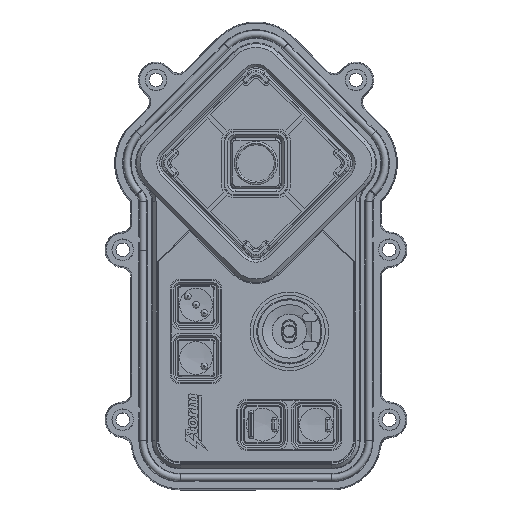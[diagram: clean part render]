
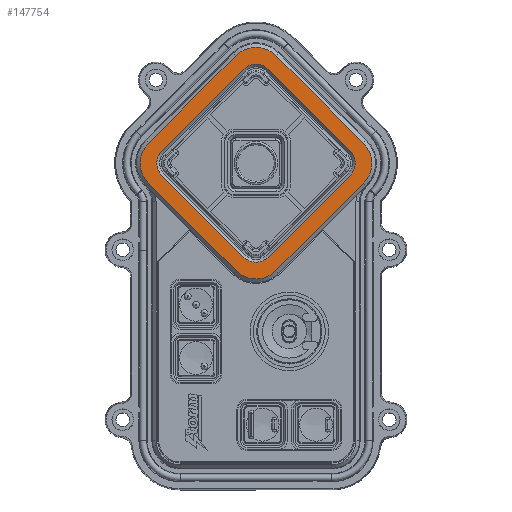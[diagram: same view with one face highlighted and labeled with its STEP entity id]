
A CAD part, top view. The second image highlights one B-rep face of the part: STEP entity #147754.
In plain terms, the highlighted planar face has unit normal (0, 0, 1).
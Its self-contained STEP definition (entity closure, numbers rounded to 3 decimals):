
#66 = VERTEX_POINT ( 'NONE', #4672 ) ;
#665 = CARTESIAN_POINT ( 'NONE',  ( -32.289, -5.97, 0. ) ) ;
#673 = CARTESIAN_POINT ( 'NONE',  ( 24.621, 0., 0. ) ) ;
#2659 = PLANE ( 'NONE',  #112557 ) ;
#4157 = CIRCLE ( 'NONE', #103508, 5.125 ) ;
#4672 = CARTESIAN_POINT ( 'NONE',  ( 3.624, -28.245, 0. ) ) ;
#5349 = CARTESIAN_POINT ( 'NONE',  ( -32.289, -5.97, 0. ) ) ;
#6485 = DIRECTION ( 'NONE',  ( 0., 0., 1. ) ) ;
#8148 = VECTOR ( 'NONE', #11241, 1000. ) ;
#8826 = VECTOR ( 'NONE', #121543, 1000. ) ;
#10736 = EDGE_LOOP ( 'NONE', ( #11108, #142085, #98765, #49258, #68237, #121639, #151900, #88462 ) ) ;
#11108 = ORIENTED_EDGE ( 'NONE', *, *, #134748, .T. ) ;
#11241 = DIRECTION ( 'NONE',  ( 0.707, 0.707, 0. ) ) ;
#12079 = CARTESIAN_POINT ( 'NONE',  ( -3.624, 28.245, 0. ) ) ;
#12913 = CIRCLE ( 'NONE', #147499, 8.443 ) ;
#13986 = CIRCLE ( 'NONE', #131234, 5.125 ) ;
#15923 = LINE ( 'NONE', #56421, #34665 ) ;
#16562 = CARTESIAN_POINT ( 'NONE',  ( 5.97, 32.289, 0. ) ) ;
#17347 = VERTEX_POINT ( 'NONE', #115428 ) ;
#18133 = EDGE_CURVE ( 'NONE', #70696, #79991, #13986, .T. ) ;
#22825 = CARTESIAN_POINT ( 'NONE',  ( -3.624, -28.245, 0. ) ) ;
#23420 = VERTEX_POINT ( 'NONE', #26204 ) ;
#26105 = CARTESIAN_POINT ( 'NONE',  ( 32.289, -5.97, 0. ) ) ;
#26204 = CARTESIAN_POINT ( 'NONE',  ( 5.97, -32.289, 0. ) ) ;
#28986 = ORIENTED_EDGE ( 'NONE', *, *, #76431, .T. ) ;
#30632 = EDGE_CURVE ( 'NONE', #66, #49650, #36450, .T. ) ;
#30885 = LINE ( 'NONE', #5349, #88582 ) ;
#34665 = VECTOR ( 'NONE', #80861, 1000. ) ;
#35636 = CARTESIAN_POINT ( 'NONE',  ( 3.624, 28.245, 0. ) ) ;
#36450 = CIRCLE ( 'NONE', #51921, 5.125 ) ;
#36659 = AXIS2_PLACEMENT_3D ( 'NONE', #146789, #98054, #97562 ) ;
#37444 = FACE_BOUND ( 'NONE', #109433, .T. ) ;
#39098 = DIRECTION ( 'NONE',  ( 1., 0., 0. ) ) ;
#42093 = DIRECTION ( 'NONE',  ( 1., 0., 0. ) ) ;
#44574 = EDGE_CURVE ( 'NONE', #153120, #141287, #30885, .T. ) ;
#45294 = DIRECTION ( 'NONE',  ( 0., 0., 1. ) ) ;
#48662 = VERTEX_POINT ( 'NONE', #35636 ) ;
#48976 = AXIS2_PLACEMENT_3D ( 'NONE', #129459, #45294, #151847 ) ;
#49258 = ORIENTED_EDGE ( 'NONE', *, *, #65773, .T. ) ;
#49650 = VERTEX_POINT ( 'NONE', #22825 ) ;
#51921 = AXIS2_PLACEMENT_3D ( 'NONE', #137502, #66350, #65822 ) ;
#52292 = VERTEX_POINT ( 'NONE', #68182 ) ;
#52550 = VERTEX_POINT ( 'NONE', #92469 ) ;
#56421 = CARTESIAN_POINT ( 'NONE',  ( -28.245, -3.624, 0. ) ) ;
#57553 = LINE ( 'NONE', #26105, #85403 ) ;
#64691 = CIRCLE ( 'NONE', #148173, 8.443 ) ;
#65773 = EDGE_CURVE ( 'NONE', #52550, #17347, #124137, .T. ) ;
#65822 = DIRECTION ( 'NONE',  ( 1., 0., 0. ) ) ;
#66350 = DIRECTION ( 'NONE',  ( 0., 0., -1. ) ) ;
#66554 = CARTESIAN_POINT ( 'NONE',  ( 0., -26.319, 0. ) ) ;
#67374 = CARTESIAN_POINT ( 'NONE',  ( 0., 26.319, 0. ) ) ;
#67780 = LINE ( 'NONE', #98143, #99435 ) ;
#68182 = CARTESIAN_POINT ( 'NONE',  ( -28.245, -3.624, 0. ) ) ;
#68237 = ORIENTED_EDGE ( 'NONE', *, *, #99018, .T. ) ;
#69092 = FACE_OUTER_BOUND ( 'NONE', #10736, .T. ) ;
#69770 = LINE ( 'NONE', #137428, #73495 ) ;
#70118 = EDGE_CURVE ( 'NONE', #80648, #52550, #64691, .T. ) ;
#70696 = VERTEX_POINT ( 'NONE', #124178 ) ;
#72955 = DIRECTION ( 'NONE',  ( 0.707, 0.707, 0. ) ) ;
#73495 = VECTOR ( 'NONE', #149940, 1000. ) ;
#74483 = DIRECTION ( 'NONE',  ( 0., 0., -1. ) ) ;
#74840 = VECTOR ( 'NONE', #146623, 1000. ) ;
#76013 = CARTESIAN_POINT ( 'NONE',  ( 28.245, 3.624, 0. ) ) ;
#76431 = EDGE_CURVE ( 'NONE', #48662, #70696, #138011, .T. ) ;
#77135 = ORIENTED_EDGE ( 'NONE', *, *, #145611, .T. ) ;
#77220 = EDGE_CURVE ( 'NONE', #84271, #80648, #69770, .T. ) ;
#78504 = DIRECTION ( 'NONE',  ( 0., 0., 1. ) ) ;
#79991 = VERTEX_POINT ( 'NONE', #103340 ) ;
#80648 = VERTEX_POINT ( 'NONE', #16562 ) ;
#80861 = DIRECTION ( 'NONE',  ( -0.707, 0.707, 0. ) ) ;
#81324 = CIRCLE ( 'NONE', #48976, 8.443 ) ;
#84271 = VERTEX_POINT ( 'NONE', #133177 ) ;
#85403 = VECTOR ( 'NONE', #72955, 1000. ) ;
#85933 = DIRECTION ( 'NONE',  ( 0., 0., 1. ) ) ;
#88278 = VERTEX_POINT ( 'NONE', #12079 ) ;
#88462 = ORIENTED_EDGE ( 'NONE', *, *, #116573, .T. ) ;
#88582 = VECTOR ( 'NONE', #112493, 1000. ) ;
#89354 = AXIS2_PLACEMENT_3D ( 'NONE', #113319, #78504, #42093 ) ;
#89403 = ORIENTED_EDGE ( 'NONE', *, *, #133101, .T. ) ;
#91777 = DIRECTION ( 'NONE',  ( 1., 0., 0. ) ) ;
#92469 = CARTESIAN_POINT ( 'NONE',  ( -5.97, 32.289, 0. ) ) ;
#95098 = VERTEX_POINT ( 'NONE', #140322 ) ;
#97562 = DIRECTION ( 'NONE',  ( 1., 0., 0. ) ) ;
#97703 = CARTESIAN_POINT ( 'NONE',  ( -5.97, 32.289, 0. ) ) ;
#98054 = DIRECTION ( 'NONE',  ( 0., 0., -1. ) ) ;
#98143 = CARTESIAN_POINT ( 'NONE',  ( 3.624, -28.245, 0. ) ) ;
#98765 = ORIENTED_EDGE ( 'NONE', *, *, #70118, .T. ) ;
#99018 = EDGE_CURVE ( 'NONE', #17347, #153120, #132787, .T. ) ;
#99435 = VECTOR ( 'NONE', #123032, 1000. ) ;
#99478 = CARTESIAN_POINT ( 'NONE',  ( 0., 26.319, 0. ) ) ;
#103340 = CARTESIAN_POINT ( 'NONE',  ( 28.245, -3.624, 0. ) ) ;
#103508 = AXIS2_PLACEMENT_3D ( 'NONE', #145578, #74483, #39098 ) ;
#105461 = ORIENTED_EDGE ( 'NONE', *, *, #30632, .T. ) ;
#107361 = DIRECTION ( 'NONE',  ( 1., 0., 0. ) ) ;
#108273 = ORIENTED_EDGE ( 'NONE', *, *, #110394, .T. ) ;
#109433 = EDGE_LOOP ( 'NONE', ( #109748, #77135, #105461, #124406, #89403, #147933, #108273, #28986 ) ) ;
#109748 = ORIENTED_EDGE ( 'NONE', *, *, #18133, .T. ) ;
#110394 = EDGE_CURVE ( 'NONE', #88278, #48662, #113704, .T. ) ;
#112493 = DIRECTION ( 'NONE',  ( 0.707, -0.707, 0. ) ) ;
#112557 = AXIS2_PLACEMENT_3D ( 'NONE', #99478, #85933, #145615 ) ;
#113319 = CARTESIAN_POINT ( 'NONE',  ( -26.319, 0., 0. ) ) ;
#113704 = CIRCLE ( 'NONE', #36659, 5.125 ) ;
#115428 = CARTESIAN_POINT ( 'NONE',  ( -32.289, 5.97, 0. ) ) ;
#116573 = EDGE_CURVE ( 'NONE', #23420, #95098, #57553, .T. ) ;
#117497 = CARTESIAN_POINT ( 'NONE',  ( -28.245, 3.624, 0. ) ) ;
#121543 = DIRECTION ( 'NONE',  ( -0.707, -0.707, 0. ) ) ;
#121639 = ORIENTED_EDGE ( 'NONE', *, *, #44574, .T. ) ;
#123032 = DIRECTION ( 'NONE',  ( -0.707, -0.707, 0. ) ) ;
#123708 = DIRECTION ( 'NONE',  ( 1., 0., 0. ) ) ;
#124137 = LINE ( 'NONE', #97703, #8826 ) ;
#124178 = CARTESIAN_POINT ( 'NONE',  ( 28.245, 3.624, 0. ) ) ;
#124406 = ORIENTED_EDGE ( 'NONE', *, *, #130759, .T. ) ;
#129292 = CARTESIAN_POINT ( 'NONE',  ( -3.624, 28.245, 0. ) ) ;
#129459 = CARTESIAN_POINT ( 'NONE',  ( 26.319, 0., 0. ) ) ;
#130759 = EDGE_CURVE ( 'NONE', #49650, #52292, #15923, .T. ) ;
#131234 = AXIS2_PLACEMENT_3D ( 'NONE', #673, #143648, #107361 ) ;
#132787 = CIRCLE ( 'NONE', #89354, 8.443 ) ;
#133101 = EDGE_CURVE ( 'NONE', #52292, #140159, #4157, .T. ) ;
#133177 = CARTESIAN_POINT ( 'NONE',  ( 32.289, 5.97, 0. ) ) ;
#133879 = CARTESIAN_POINT ( 'NONE',  ( -5.97, -32.289, 0. ) ) ;
#134748 = EDGE_CURVE ( 'NONE', #95098, #84271, #81324, .T. ) ;
#136676 = DIRECTION ( 'NONE',  ( 0., 0., 1. ) ) ;
#137428 = CARTESIAN_POINT ( 'NONE',  ( 5.97, 32.289, 0. ) ) ;
#137502 = CARTESIAN_POINT ( 'NONE',  ( 0., -24.621, 0. ) ) ;
#138011 = LINE ( 'NONE', #76013, #74840 ) ;
#138345 = LINE ( 'NONE', #129292, #8148 ) ;
#140159 = VERTEX_POINT ( 'NONE', #117497 ) ;
#140322 = CARTESIAN_POINT ( 'NONE',  ( 32.289, -5.97, 0. ) ) ;
#141287 = VERTEX_POINT ( 'NONE', #133879 ) ;
#142085 = ORIENTED_EDGE ( 'NONE', *, *, #77220, .T. ) ;
#143648 = DIRECTION ( 'NONE',  ( 0., 0., -1. ) ) ;
#145578 = CARTESIAN_POINT ( 'NONE',  ( -24.621, 0., 0. ) ) ;
#145611 = EDGE_CURVE ( 'NONE', #79991, #66, #67780, .T. ) ;
#145615 = DIRECTION ( 'NONE',  ( 1., 0., 0. ) ) ;
#146623 = DIRECTION ( 'NONE',  ( 0.707, -0.707, 0. ) ) ;
#146789 = CARTESIAN_POINT ( 'NONE',  ( 0., 24.621, 0. ) ) ;
#147111 = EDGE_CURVE ( 'NONE', #140159, #88278, #138345, .T. ) ;
#147499 = AXIS2_PLACEMENT_3D ( 'NONE', #66554, #136676, #123708 ) ;
#147754 = ADVANCED_FACE ( 'NONE', ( #37444, #69092 ), #2659, .T. ) ;
#147933 = ORIENTED_EDGE ( 'NONE', *, *, #147111, .T. ) ;
#148173 = AXIS2_PLACEMENT_3D ( 'NONE', #67374, #6485, #91777 ) ;
#149940 = DIRECTION ( 'NONE',  ( -0.707, 0.707, 0. ) ) ;
#150152 = EDGE_CURVE ( 'NONE', #141287, #23420, #12913, .T. ) ;
#151847 = DIRECTION ( 'NONE',  ( 1., 0., 0. ) ) ;
#151900 = ORIENTED_EDGE ( 'NONE', *, *, #150152, .T. ) ;
#153120 = VERTEX_POINT ( 'NONE', #665 ) ;
